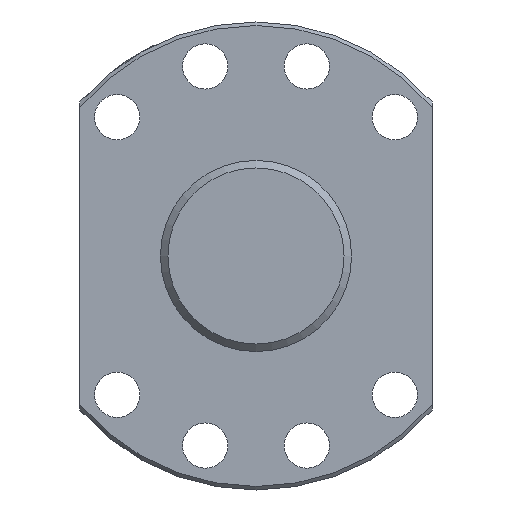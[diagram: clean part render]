
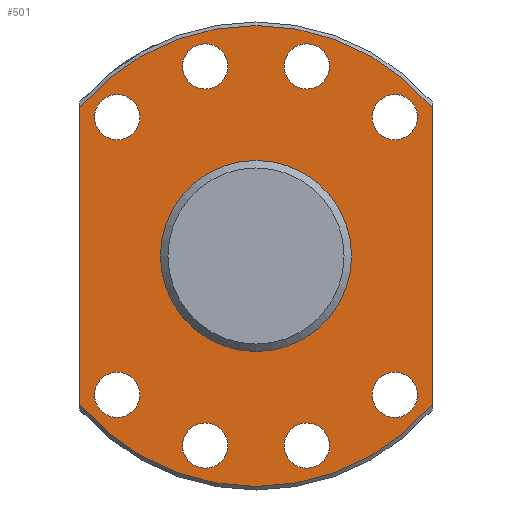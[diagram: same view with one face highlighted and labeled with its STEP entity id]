
A CAD part, left-side view. The second image highlights one B-rep face of the part: STEP entity #501.
In plain terms, the highlighted planar face has unit normal (-1, 0, 0).
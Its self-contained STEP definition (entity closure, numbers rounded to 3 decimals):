
#22=LINE('',#869,#30);
#23=LINE('',#870,#31);
#30=VECTOR('',#679,1000.);
#31=VECTOR('',#680,1000.);
#108=ORIENTED_EDGE('',*,*,#214,.F.);
#109=ORIENTED_EDGE('',*,*,#215,.F.);
#110=ORIENTED_EDGE('',*,*,#201,.F.);
#111=ORIENTED_EDGE('',*,*,#216,.F.);
#112=ORIENTED_EDGE('',*,*,#217,.T.);
#113=ORIENTED_EDGE('',*,*,#218,.T.);
#114=ORIENTED_EDGE('',*,*,#219,.T.);
#115=ORIENTED_EDGE('',*,*,#220,.T.);
#116=ORIENTED_EDGE('',*,*,#221,.T.);
#117=ORIENTED_EDGE('',*,*,#222,.T.);
#118=ORIENTED_EDGE('',*,*,#223,.T.);
#119=ORIENTED_EDGE('',*,*,#224,.T.);
#120=ORIENTED_EDGE('',*,*,#197,.F.);
#197=EDGE_CURVE('',#253,#253,#301,.F.);
#201=EDGE_CURVE('',#257,#258,#303,.T.);
#214=EDGE_CURVE('',#268,#269,#308,.T.);
#215=EDGE_CURVE('',#258,#268,#22,.T.);
#216=EDGE_CURVE('',#269,#257,#23,.T.);
#217=EDGE_CURVE('',#270,#270,#309,.T.);
#218=EDGE_CURVE('',#271,#271,#310,.T.);
#219=EDGE_CURVE('',#272,#272,#311,.T.);
#220=EDGE_CURVE('',#273,#273,#312,.T.);
#221=EDGE_CURVE('',#274,#274,#313,.T.);
#222=EDGE_CURVE('',#275,#275,#314,.T.);
#223=EDGE_CURVE('',#276,#276,#315,.T.);
#224=EDGE_CURVE('',#277,#277,#316,.T.);
#253=VERTEX_POINT('',#798);
#257=VERTEX_POINT('',#819);
#258=VERTEX_POINT('',#821);
#268=VERTEX_POINT('',#867);
#269=VERTEX_POINT('',#868);
#270=VERTEX_POINT('',#872);
#271=VERTEX_POINT('',#874);
#272=VERTEX_POINT('',#876);
#273=VERTEX_POINT('',#878);
#274=VERTEX_POINT('',#880);
#275=VERTEX_POINT('',#882);
#276=VERTEX_POINT('',#884);
#277=VERTEX_POINT('',#886);
#301=CIRCLE('',#562,19.);
#303=CIRCLE('',#565,45.8);
#308=CIRCLE('',#574,45.8);
#309=CIRCLE('',#575,4.5);
#310=CIRCLE('',#576,4.5);
#311=CIRCLE('',#577,4.5);
#312=CIRCLE('',#578,4.5);
#313=CIRCLE('',#579,4.5);
#314=CIRCLE('',#580,4.5);
#315=CIRCLE('',#581,4.5);
#316=CIRCLE('',#582,4.5);
#350=EDGE_LOOP('',(#108,#109,#110,#111));
#351=EDGE_LOOP('',(#112));
#352=EDGE_LOOP('',(#113));
#353=EDGE_LOOP('',(#114));
#354=EDGE_LOOP('',(#115));
#355=EDGE_LOOP('',(#116));
#356=EDGE_LOOP('',(#117));
#357=EDGE_LOOP('',(#118));
#358=EDGE_LOOP('',(#119));
#359=EDGE_LOOP('',(#120));
#424=FACE_BOUND('',#350,.T.);
#425=FACE_BOUND('',#351,.T.);
#426=FACE_BOUND('',#352,.T.);
#427=FACE_BOUND('',#353,.T.);
#428=FACE_BOUND('',#354,.T.);
#429=FACE_BOUND('',#355,.T.);
#430=FACE_BOUND('',#356,.T.);
#431=FACE_BOUND('',#357,.T.);
#432=FACE_BOUND('',#358,.T.);
#433=FACE_BOUND('',#359,.T.);
#484=PLANE('',#573);
#501=ADVANCED_FACE('',(#424,#425,#426,#427,#428,#429,#430,#431,#432,#433),
#484,.F.);
#562=AXIS2_PLACEMENT_3D('',#797,#649,#650);
#565=AXIS2_PLACEMENT_3D('',#820,#655,#656);
#573=AXIS2_PLACEMENT_3D('',#865,#675,#676);
#574=AXIS2_PLACEMENT_3D('',#866,#677,#678);
#575=AXIS2_PLACEMENT_3D('',#871,#681,#682);
#576=AXIS2_PLACEMENT_3D('',#873,#683,#684);
#577=AXIS2_PLACEMENT_3D('',#875,#685,#686);
#578=AXIS2_PLACEMENT_3D('',#877,#687,#688);
#579=AXIS2_PLACEMENT_3D('',#879,#689,#690);
#580=AXIS2_PLACEMENT_3D('',#881,#691,#692);
#581=AXIS2_PLACEMENT_3D('',#883,#693,#694);
#582=AXIS2_PLACEMENT_3D('',#885,#695,#696);
#649=DIRECTION('',(1.,0.,0.));
#650=DIRECTION('',(0.,0.,-1.));
#655=DIRECTION('',(1.,0.,0.));
#656=DIRECTION('',(0.,0.,-1.));
#675=DIRECTION('',(1.,0.,0.));
#676=DIRECTION('',(0.,0.,-1.));
#677=DIRECTION('',(1.,0.,0.));
#678=DIRECTION('',(0.,0.,-1.));
#679=DIRECTION('',(0.,1.,0.));
#680=DIRECTION('',(0.,-1.,0.));
#681=DIRECTION('',(1.,0.,0.));
#682=DIRECTION('',(0.,0.,-1.));
#683=DIRECTION('',(1.,0.,0.));
#684=DIRECTION('',(0.,0.,-1.));
#685=DIRECTION('',(1.,0.,0.));
#686=DIRECTION('',(0.,0.,-1.));
#687=DIRECTION('',(1.,0.,0.));
#688=DIRECTION('',(0.,0.,-1.));
#689=DIRECTION('',(1.,0.,0.));
#690=DIRECTION('',(0.,0.,-1.));
#691=DIRECTION('',(1.,0.,0.));
#692=DIRECTION('',(0.,0.,-1.));
#693=DIRECTION('',(1.,0.,0.));
#694=DIRECTION('',(0.,0.,-1.));
#695=DIRECTION('',(1.,0.,0.));
#696=DIRECTION('',(0.,0.,-1.));
#797=CARTESIAN_POINT('',(0.,0.,0.));
#798=CARTESIAN_POINT('',(0.,0.,-19.));
#819=CARTESIAN_POINT('',(0.,-29.54,35.));
#820=CARTESIAN_POINT('',(0.,0.,0.));
#821=CARTESIAN_POINT('',(0.,-29.54,-35.));
#865=CARTESIAN_POINT('',(0.,0.,0.));
#866=CARTESIAN_POINT('',(0.,0.,0.));
#867=CARTESIAN_POINT('',(0.,29.54,-35.));
#868=CARTESIAN_POINT('',(0.,29.54,35.));
#869=CARTESIAN_POINT('',(0.,-55.8,-35.));
#870=CARTESIAN_POINT('',(0.,55.8,35.));
#871=CARTESIAN_POINT('',(0.,-27.577,27.577));
#872=CARTESIAN_POINT('',(0.,-27.577,23.077));
#873=CARTESIAN_POINT('',(0.,27.577,-27.577));
#874=CARTESIAN_POINT('',(0.,27.577,-32.077));
#875=CARTESIAN_POINT('',(0.,-37.671,10.094));
#876=CARTESIAN_POINT('',(0.,-37.671,5.594));
#877=CARTESIAN_POINT('',(0.,37.671,-10.094));
#878=CARTESIAN_POINT('',(0.,37.671,-14.594));
#879=CARTESIAN_POINT('',(0.,-37.671,-10.094));
#880=CARTESIAN_POINT('',(0.,-37.671,-14.594));
#881=CARTESIAN_POINT('',(0.,37.671,10.094));
#882=CARTESIAN_POINT('',(0.,37.671,5.594));
#883=CARTESIAN_POINT('',(0.,-27.577,-27.577));
#884=CARTESIAN_POINT('',(0.,-27.577,-32.077));
#885=CARTESIAN_POINT('',(0.,27.577,27.577));
#886=CARTESIAN_POINT('',(0.,27.577,23.077));
